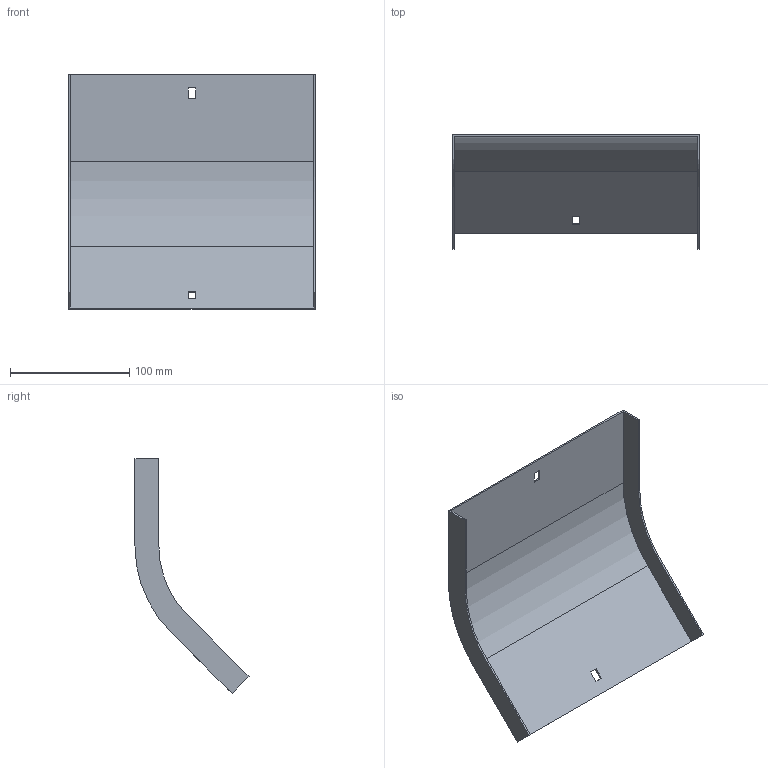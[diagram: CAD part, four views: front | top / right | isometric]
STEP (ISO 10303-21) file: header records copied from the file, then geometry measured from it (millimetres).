
FILE_DESCRIPTION (( 'STEP AP214' ), '1' );
FILE_NAME ('34G1D200.step', '2025-02-21T12:42:20', ( '' ), ( '' ), 'SwSTEP 2.0', 'SolidWorks 2023', '' );
FILE_SCHEMA (( 'AUTOMOTIVE_DESIGN' ));
Length unit declared in the file: millimetre
Products named in the file (1): 34G1D200
Bounding box: 207 x 95.56 x 196.56 mm (x, y, z)
Volume: 81859 mm3; surface area: 110602.7 mm2
Topology: 1 solids, 1 shells, 26 faces, 72 edges, 48 vertices
Faces by surface type: plane 22, cylinder 4
Entity records: 855 total; most frequent: CARTESIAN_POINT 147, ORIENTED_EDGE 144, DIRECTION 134, EDGE_CURVE 72, VECTOR 64, LINE 64, VERTEX_POINT 48, AXIS2_PLACEMENT_3D 35
